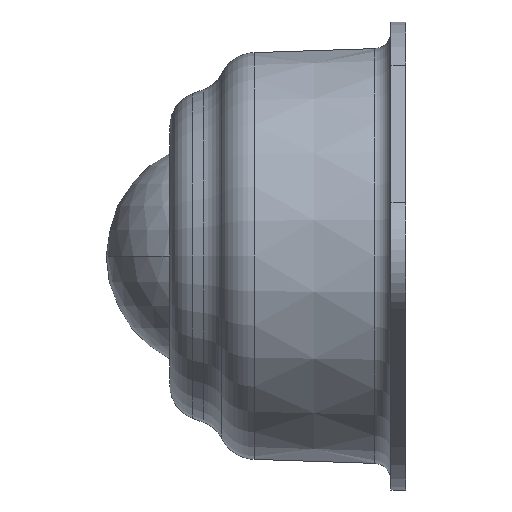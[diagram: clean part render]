
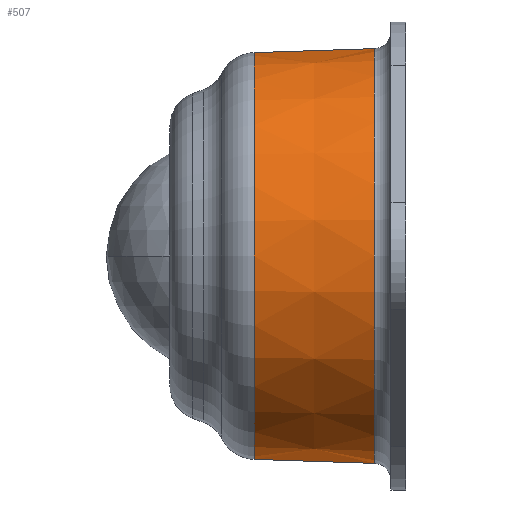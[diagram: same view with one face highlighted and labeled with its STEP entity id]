
A CAD part, left-side view. The second image highlights one B-rep face of the part: STEP entity #507.
In plain terms, the highlighted conical face has half-angle 1.9 degrees and reference radius 14.249 mm.
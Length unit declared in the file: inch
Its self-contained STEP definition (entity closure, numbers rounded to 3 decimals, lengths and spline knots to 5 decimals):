
#159 = DIRECTION ( 'NONE',  ( 0., 1., 0. ) ) ;
#160 = CARTESIAN_POINT ( 'NONE',  ( 0., 0.08456, 0. ) ) ;
#165 = ORIENTED_EDGE ( 'NONE', *, *, #355, .T. ) ;
#174 = ORIENTED_EDGE ( 'NONE', *, *, #1401, .F. ) ;
#249 = DIRECTION ( 'NONE',  ( 0., -0.999, 0.033 ) ) ;
#264 = LINE ( 'NONE', #513, #1112 ) ;
#331 = ORIENTED_EDGE ( 'NONE', *, *, #972, .F. ) ;
#350 = CIRCLE ( 'NONE', #583, 0.55019 ) ;
#355 = EDGE_CURVE ( 'NONE', #1271, #1111, #264, .T. ) ;
#368 = FACE_OUTER_BOUND ( 'NONE', #1379, .T. ) ;
#370 = VECTOR ( 'NONE', #249, 39.37008 ) ;
#442 = AXIS2_PLACEMENT_3D ( 'NONE', #160, #577, #794 ) ;
#451 = CARTESIAN_POINT ( 'NONE',  ( 0., 0.08456, 0.561 ) ) ;
#456 = CARTESIAN_POINT ( 'NONE',  ( 0., 0.08456, 0.561 ) ) ;
#507 = ADVANCED_FACE ( 'NONE', ( #368 ), #885, .T. ) ;
#513 = CARTESIAN_POINT ( 'NONE',  ( 0., 0.08456, -0.561 ) ) ;
#519 = VERTEX_POINT ( 'NONE', #451 ) ;
#571 = CARTESIAN_POINT ( 'NONE',  ( 0., 0.41033, 0.55019 ) ) ;
#577 = DIRECTION ( 'NONE',  ( 0., 1., 0. ) ) ;
#583 = AXIS2_PLACEMENT_3D ( 'NONE', #1129, #159, #1272 ) ;
#647 = CARTESIAN_POINT ( 'NONE',  ( 0., 0.41033, -0.55019 ) ) ;
#677 = CARTESIAN_POINT ( 'NONE',  ( 0., 0.08456, 0. ) ) ;
#684 = DIRECTION ( 'NONE',  ( 0., -1., 0. ) ) ;
#791 = DIRECTION ( 'NONE',  ( 0., 0., -1. ) ) ;
#794 = DIRECTION ( 'NONE',  ( 0., 0., 1. ) ) ;
#885 = CONICAL_SURFACE ( 'NONE', #1003, 0.561, 0.033 ) ;
#917 = CARTESIAN_POINT ( 'NONE',  ( 0., 0.08456, -0.561 ) ) ;
#972 = EDGE_CURVE ( 'NONE', #1074, #519, #1242, .T. ) ;
#977 = ORIENTED_EDGE ( 'NONE', *, *, #978, .T. ) ;
#978 = EDGE_CURVE ( 'NONE', #1111, #519, #1279, .T. ) ;
#1003 = AXIS2_PLACEMENT_3D ( 'NONE', #677, #684, #791 ) ;
#1074 = VERTEX_POINT ( 'NONE', #571 ) ;
#1111 = VERTEX_POINT ( 'NONE', #917 ) ;
#1112 = VECTOR ( 'NONE', #1405, 39.37008 ) ;
#1129 = CARTESIAN_POINT ( 'NONE',  ( 0., 0.41033, 0. ) ) ;
#1242 = LINE ( 'NONE', #456, #370 ) ;
#1271 = VERTEX_POINT ( 'NONE', #647 ) ;
#1272 = DIRECTION ( 'NONE',  ( 0., 0., 1. ) ) ;
#1279 = CIRCLE ( 'NONE', #442, 0.561 ) ;
#1379 = EDGE_LOOP ( 'NONE', ( #331, #174, #165, #977 ) ) ;
#1401 = EDGE_CURVE ( 'NONE', #1271, #1074, #350, .T. ) ;
#1405 = DIRECTION ( 'NONE',  ( 0., -0.999, -0.033 ) ) ;
